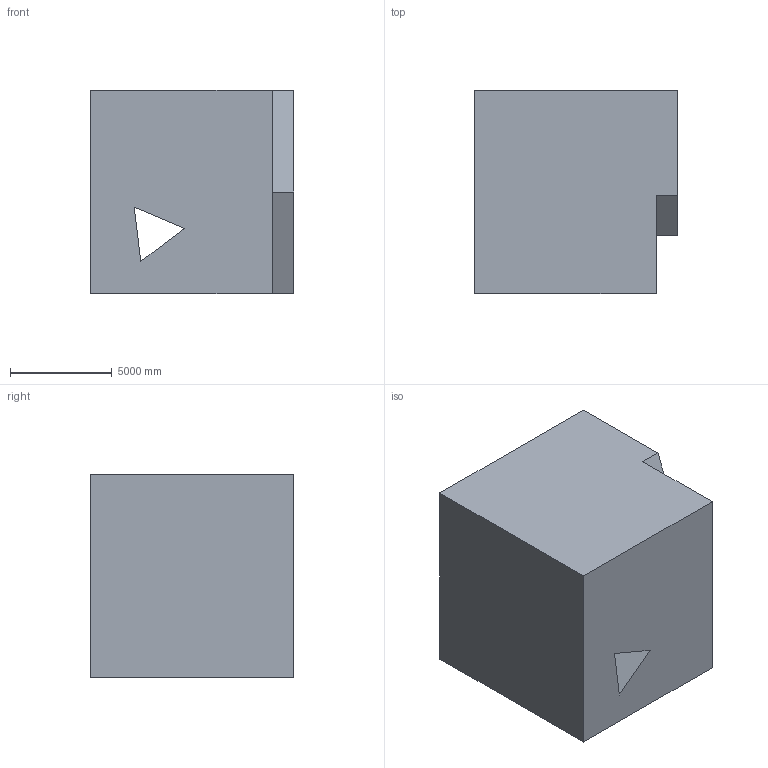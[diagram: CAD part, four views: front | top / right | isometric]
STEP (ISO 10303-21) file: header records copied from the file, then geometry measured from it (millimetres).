
FILE_DESCRIPTION (( 'STEP AP203' ), '1' );
FILE_NAME ('295.STEP', '2022-07-28T14:14:33', ( 'user' ), ( '' ), 'SwSTEP 2.0', 'SolidWorks 2021', '' );
FILE_SCHEMA (( 'CONFIG_CONTROL_DESIGN' ));
Length unit declared in the file: centimetre
Products named in the file (1): 295
Bounding box: 10000 x 10000 x 10000 mm (x, y, z)
Volume: 923177977638.6 mm3; surface area: 685822251.9 mm2
Topology: 1 solids, 1 shells, 16 faces, 39 edges, 26 vertices
Faces by surface type: plane 16
Entity records: 544 total; most frequent: CARTESIAN_POINT 82, ORIENTED_EDGE 78, DIRECTION 73, VECTOR 39, LINE 39, EDGE_CURVE 39, VERTEX_POINT 26, EDGE_LOOP 19
